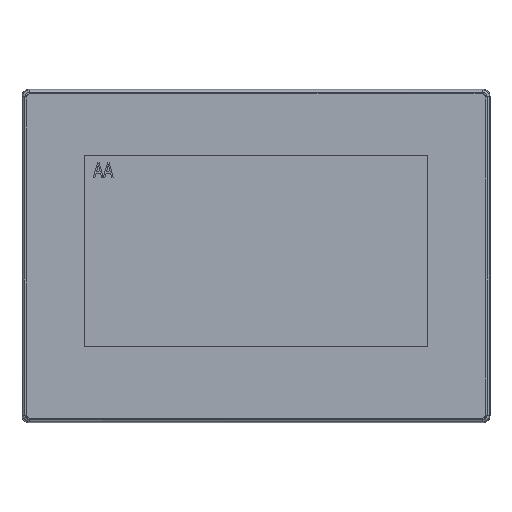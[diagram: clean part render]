
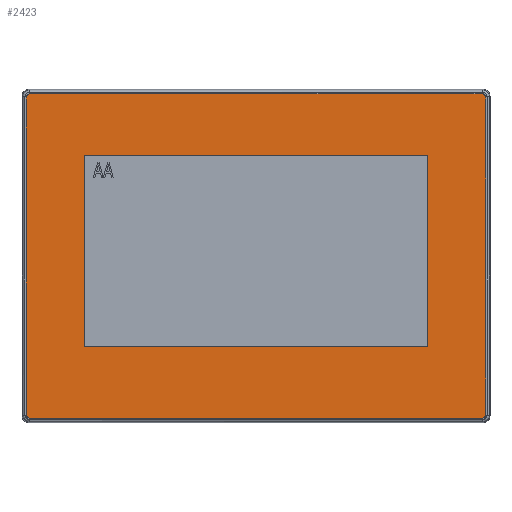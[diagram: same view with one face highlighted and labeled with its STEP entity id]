
A CAD part, top view. The second image highlights one B-rep face of the part: STEP entity #2423.
In plain terms, the highlighted planar face has unit normal (0, 0, 1).
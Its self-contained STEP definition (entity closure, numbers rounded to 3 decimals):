
#463=(
BOUNDED_CURVE()
B_SPLINE_CURVE(3,(#27134,#27135,#27136,#27137,#27138,#27139,#27140,#27141,
#27142,#27143,#27144,#27145,#27146,#27147,#27148,#27149,#27150,#27151,#27152,
#27153,#27154,#27155,#27156,#27157,#27158),.UNSPECIFIED.,.T.,.F.)
B_SPLINE_CURVE_WITH_KNOTS((1,3,3,3,3,3,3,3,3,3,1),(-0.003,0.,
0.382,0.387,0.603,0.607,
0.854,0.858,0.997,1.,1.382),
 .UNSPECIFIED.)
CURVE()
GEOMETRIC_REPRESENTATION_ITEM()
RATIONAL_B_SPLINE_CURVE((1.,1.,1.,1.,0.805,0.805,
1.,1.,1.,1.,0.805,0.805,1.,1.,1.,1.,0.805,
0.805,1.,1.,1.,1.,0.805,0.805,1.))
REPRESENTATION_ITEM('')
);
#1601=FACE_OUTER_BOUND('',#4189,.T.);
#2423=ADVANCED_FACE('',(#1601),#2926,.T.);
#2926=PLANE('',#17441);
#4189=EDGE_LOOP('',(#9104));
#9104=ORIENTED_EDGE('',*,*,#12916,.F.);
#10692=VERTEX_POINT('',#27159);
#12916=EDGE_CURVE('',#10692,#10692,#463,.T.);
#17441=AXIS2_PLACEMENT_3D('',#27211,#21686,#21687);
#21686=DIRECTION('',(0.,0.,1.));
#21687=DIRECTION('',(0.,-1.,0.));
#27134=CARTESIAN_POINT('',(-101.1,72.85,5.65));
#27135=CARTESIAN_POINT('',(-33.7,72.85,5.65));
#27136=CARTESIAN_POINT('',(33.7,72.85,5.65));
#27137=CARTESIAN_POINT('',(101.1,72.85,5.65));
#27138=CARTESIAN_POINT('',(102.272,72.85,5.65));
#27139=CARTESIAN_POINT('',(103.1,72.022,5.65));
#27140=CARTESIAN_POINT('',(103.1,70.85,5.65));
#27141=CARTESIAN_POINT('',(103.1,23.617,5.65));
#27142=CARTESIAN_POINT('',(103.1,-23.617,5.65));
#27143=CARTESIAN_POINT('',(103.1,-70.85,5.65));
#27144=CARTESIAN_POINT('',(103.1,-72.022,5.65));
#27145=CARTESIAN_POINT('',(102.272,-72.85,5.65));
#27146=CARTESIAN_POINT('',(101.1,-72.85,5.65));
#27147=CARTESIAN_POINT('',(33.7,-72.85,5.65));
#27148=CARTESIAN_POINT('',(-33.7,-72.85,5.65));
#27149=CARTESIAN_POINT('',(-101.1,-72.85,5.65));
#27150=CARTESIAN_POINT('',(-102.272,-72.85,5.65));
#27151=CARTESIAN_POINT('',(-103.1,-72.022,5.65));
#27152=CARTESIAN_POINT('',(-103.1,-70.85,5.65));
#27153=CARTESIAN_POINT('',(-103.1,-23.617,5.65));
#27154=CARTESIAN_POINT('',(-103.1,23.617,5.65));
#27155=CARTESIAN_POINT('',(-103.1,70.85,5.65));
#27156=CARTESIAN_POINT('',(-103.1,72.022,5.65));
#27157=CARTESIAN_POINT('',(-102.272,72.85,5.65));
#27158=CARTESIAN_POINT('',(-101.1,72.85,5.65));
#27159=CARTESIAN_POINT('',(-101.1,72.85,5.65));
#27211=CARTESIAN_POINT('',(103.1,-3.321,5.65));
